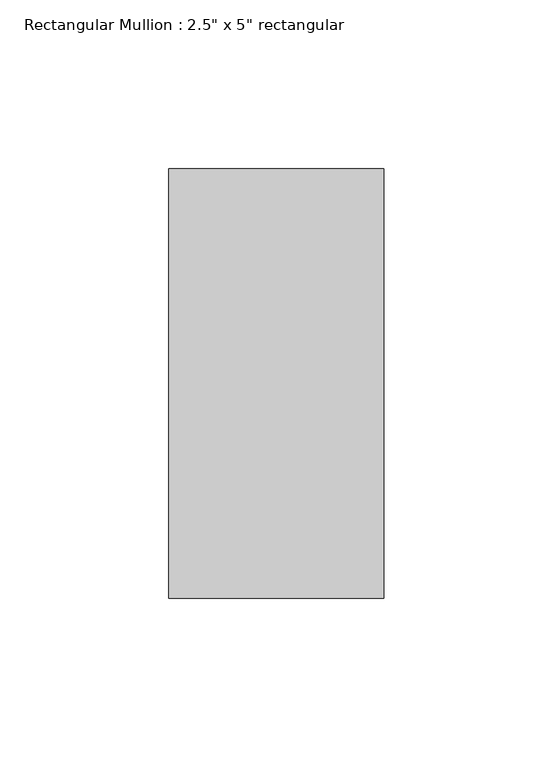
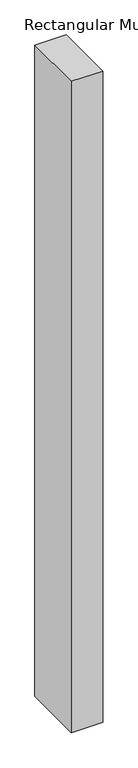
"""IFC4 building model written with IfcOpenShell, lengths in millimetres: member geometry."""

from ifc_helpers import new_model, si_unit, frame, origin, place, context, project, spatial, polyline, outline, extrude, source, transform, mapped, element, save


def member_be201841(model_context):
    return source(origin(), model_context, "Body", "SweptSolid", [
        extrude(outline(polyline([(0.0, 76.2), (0.0, -50.8), (-63.5, -50.8), (-63.5, 76.2), (0.0, 76.2)])), frame((0.0, 0.0, -1389.9029412), z_axis=(0.0, 0.0, 1.0), x_axis=(1.0, 0.0, 0.0)), (0.0, 0.0, 1.0), 1389.9029412),
    ])


if __name__ == "__main__":
    model = new_model("IFC4")
    model_context = context("Model", 3, world=origin())
    ifc_project = project(units=[si_unit("LENGTHUNIT", "METRE", prefix="MILLI")], contexts=[model_context])
    site = spatial("IfcSite", under=ifc_project)
    building = spatial("IfcBuilding", under=site)
    placement = place(None, origin())
    member_shape = member_be201841(model_context)
    element("IfcMember", 1, ObjectType="Rectangular Mullion : 2.5\" x 5\" rectangular", at=placement, inside=building, context=model_context, shape_type="MappedRepresentation", body=[
        mapped(member_shape, transform((0.0, 0.0, 0.0), x_axis=(1.0, 0.0, 0.0), y_axis=(0.0, 1.0, 0.0), z_axis=(0.0, 0.0, 1.0))),
    ])
    save(model, "model.ifc")
